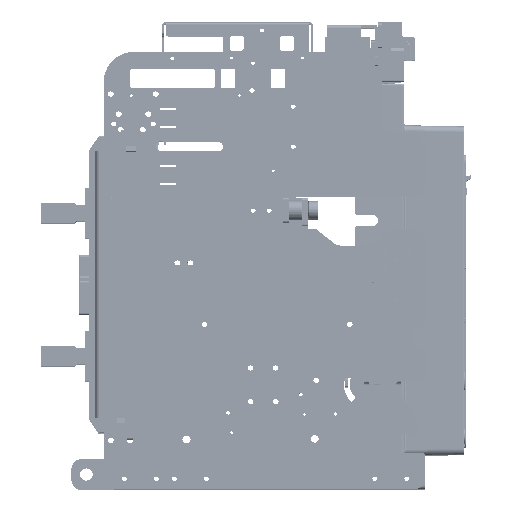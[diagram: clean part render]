
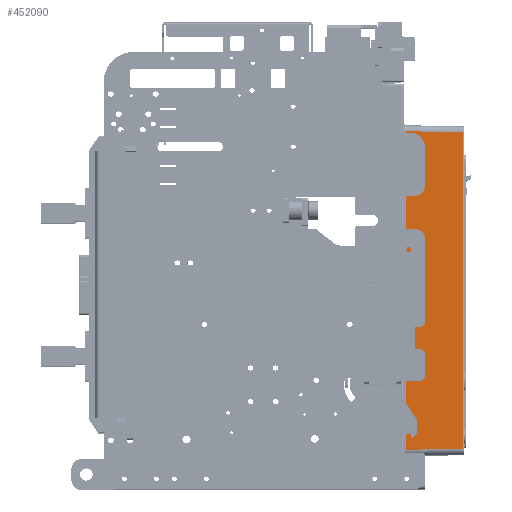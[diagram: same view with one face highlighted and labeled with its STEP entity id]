
A CAD part, top view. The second image highlights one B-rep face of the part: STEP entity #452090.
In plain terms, the highlighted planar face has unit normal (0.018, 0, 1) as drawn and (-1, 0, 0.017) by its records, which use the part's own axes.
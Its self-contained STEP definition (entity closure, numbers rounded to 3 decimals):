
#433470=DIRECTION('',(0.,-1.,0.));
#433471=VECTOR('',#433470,315.942);
#433472=CARTESIAN_POINT('',(-133.97,144.321,
108.017));
#433473=LINE('',#433472,#433471);
#433474=DIRECTION('',(0.017,0.017,1.));
#433475=VECTOR('',#433474,57.07);
#433476=CARTESIAN_POINT('',(-134.966,-172.617,
50.965));
#433477=LINE('',#433476,#433475);
#433478=DIRECTION('',(0.,1.,0.));
#433479=VECTOR('',#433478,317.934);
#433480=CARTESIAN_POINT('',(-134.966,-172.617,
50.965));
#433481=LINE('',#433480,#433479);
#433482=DIRECTION('',(-0.017,0.017,-1.));
#433483=VECTOR('',#433482,57.07);
#433484=CARTESIAN_POINT('',(-133.97,144.321,
108.017));
#433485=LINE('',#433484,#433483);
#448074=CARTESIAN_POINT('',(-133.97,144.321,
108.017));
#451065=CARTESIAN_POINT('',(-134.966,-172.617,
50.965));
#451066=CARTESIAN_POINT('',(-134.966,145.317,
50.965));
#451067=VERTEX_POINT('',#451065);
#451068=VERTEX_POINT('',#451066);
#451106=VERTEX_POINT('',#448074);
#451109=CARTESIAN_POINT('',(-133.97,-171.621,
108.017));
#451110=VERTEX_POINT('',#451109);
#452076=CARTESIAN_POINT('',(-135.,151.35,49.));
#452077=DIRECTION('',(-1.,0.,0.017));
#452078=DIRECTION('',(0.,-1.,0.));
#452079=AXIS2_PLACEMENT_3D('',#452076,#452077,#452078);
#452080=PLANE('',#452079);
#452082=ORIENTED_EDGE('',*,*,#452081,.T.);
#452084=ORIENTED_EDGE('',*,*,#452083,.F.);
#452085=ORIENTED_EDGE('',*,*,#452066,.T.);
#452087=ORIENTED_EDGE('',*,*,#452086,.F.);
#452088=EDGE_LOOP('',(#452082,#452084,#452085,#452087));
#452089=FACE_OUTER_BOUND('',#452088,.F.);
#452090=ADVANCED_FACE('',(#452089),#452080,.T.);
#452066=EDGE_CURVE('',#451067,#451068,#433481,.T.);
#452081=EDGE_CURVE('',#451106,#451110,#433473,.T.);
#452083=EDGE_CURVE('',#451067,#451110,#433477,.T.);
#452086=EDGE_CURVE('',#451106,#451068,#433485,.T.);
